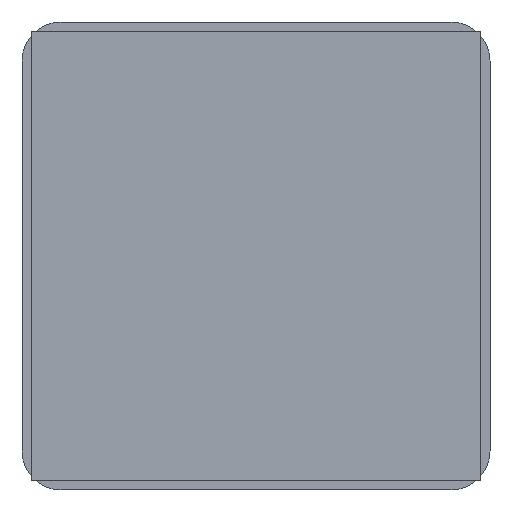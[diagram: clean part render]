
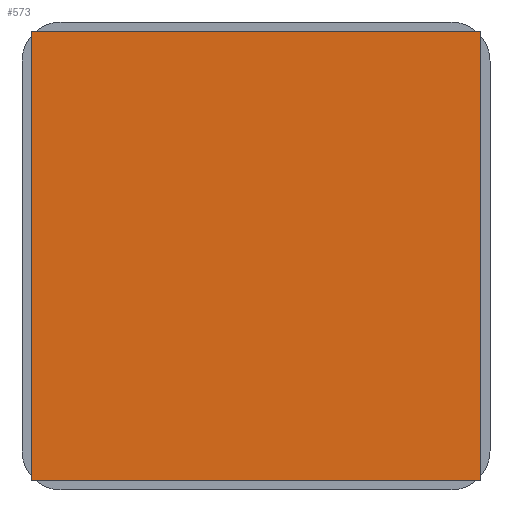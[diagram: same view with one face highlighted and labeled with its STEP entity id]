
A CAD part, front view. The second image highlights one B-rep face of the part: STEP entity #573.
In plain terms, the highlighted planar face has unit normal (0, -1, 0).
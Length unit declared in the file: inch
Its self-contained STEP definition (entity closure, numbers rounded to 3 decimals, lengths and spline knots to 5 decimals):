
#1 = DIRECTION ( 'NONE',  ( 1., 0., 0. ) ) ;
#480 = EDGE_LOOP ( 'NONE', ( #4407, #1860, #7616, #2715 ) ) ;
#573 = ADVANCED_FACE ( 'NONE', ( #2699 ), #670, .F. ) ;
#670 = PLANE ( 'NONE',  #4595 ) ;
#737 = CARTESIAN_POINT ( 'NONE',  ( -0.74803, -0.005, 0.74803 ) ) ;
#1044 = CARTESIAN_POINT ( 'NONE',  ( -0.74803, -0.005, 0.74803 ) ) ;
#1098 = LINE ( 'NONE', #7355, #2035 ) ;
#1860 = ORIENTED_EDGE ( 'NONE', *, *, #4267, .F. ) ;
#2035 = VECTOR ( 'NONE', #3803, 39.37008 ) ;
#2089 = LINE ( 'NONE', #737, #4572 ) ;
#2452 = VERTEX_POINT ( 'NONE', #1044 ) ;
#2534 = EDGE_CURVE ( 'NONE', #2452, #3297, #2089, .T. ) ;
#2699 = FACE_OUTER_BOUND ( 'NONE', #480, .T. ) ;
#2715 = ORIENTED_EDGE ( 'NONE', *, *, #2534, .F. ) ;
#2758 = CARTESIAN_POINT ( 'NONE',  ( -0.74803, -0.005, -0.74803 ) ) ;
#2917 = CARTESIAN_POINT ( 'NONE',  ( -0.74803, -0.005, 0.74803 ) ) ;
#3081 = CARTESIAN_POINT ( 'NONE',  ( -0.74803, -0.005, -0.74803 ) ) ;
#3201 = CARTESIAN_POINT ( 'NONE',  ( 0.74803, -0.005, -0.74803 ) ) ;
#3297 = VERTEX_POINT ( 'NONE', #4174 ) ;
#3485 = VERTEX_POINT ( 'NONE', #3081 ) ;
#3803 = DIRECTION ( 'NONE',  ( 0., 0., 1. ) ) ;
#4174 = CARTESIAN_POINT ( 'NONE',  ( 0.74803, -0.005, 0.74803 ) ) ;
#4267 = EDGE_CURVE ( 'NONE', #5475, #3485, #8395, .T. ) ;
#4407 = ORIENTED_EDGE ( 'NONE', *, *, #8151, .F. ) ;
#4572 = VECTOR ( 'NONE', #1, 39.37008 ) ;
#4595 = AXIS2_PLACEMENT_3D ( 'NONE', #2917, #6425, #5738 ) ;
#4664 = DIRECTION ( 'NONE',  ( 0., 0., -1. ) ) ;
#5475 = VERTEX_POINT ( 'NONE', #3201 ) ;
#5738 = DIRECTION ( 'NONE',  ( 0., 0., 1. ) ) ;
#6425 = DIRECTION ( 'NONE',  ( 0., 1., 0. ) ) ;
#6555 = CARTESIAN_POINT ( 'NONE',  ( 0.74803, -0.005, -0.74803 ) ) ;
#7287 = VECTOR ( 'NONE', #4664, 39.37008 ) ;
#7355 = CARTESIAN_POINT ( 'NONE',  ( -0.74803, -0.005, -0.74803 ) ) ;
#7616 = ORIENTED_EDGE ( 'NONE', *, *, #9047, .F. ) ;
#8053 = VECTOR ( 'NONE', #8340, 39.37008 ) ;
#8151 = EDGE_CURVE ( 'NONE', #3485, #2452, #1098, .T. ) ;
#8340 = DIRECTION ( 'NONE',  ( -1., 0., 0. ) ) ;
#8395 = LINE ( 'NONE', #2758, #8053 ) ;
#8715 = LINE ( 'NONE', #6555, #7287 ) ;
#9047 = EDGE_CURVE ( 'NONE', #3297, #5475, #8715, .T. ) ;
